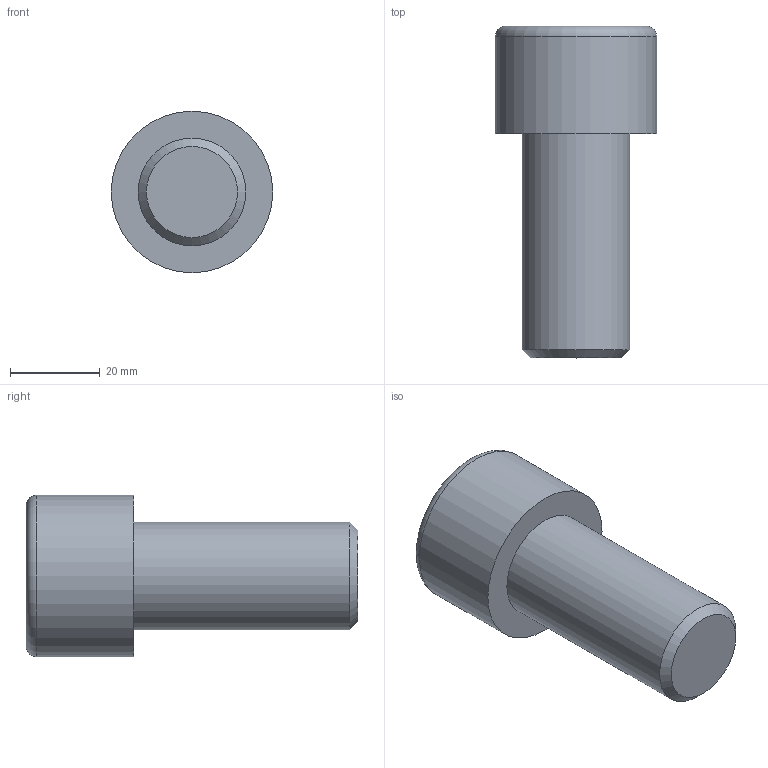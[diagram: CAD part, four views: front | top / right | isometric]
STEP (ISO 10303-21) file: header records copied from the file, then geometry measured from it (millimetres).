
FILE_DESCRIPTION(/* description */ (''),/* implementation_level */ '2;1');
FILE_NAME(/* name */ 'C:\Users\D\Documents\Inventor\各種小物\JIS\JIS B 1176 六角穴付きボルト\M24x50.stp',/* time_stamp */ '2022-05-09T19:00:00+09:00',/* author */ ('D'),/* organization */ (''),/* preprocessor_version */ 'ST-DEVELOPER v18',/* originating_system */ 'Autodesk Inventor 2020',/* authorisation */ '');
FILE_SCHEMA (('AUTOMOTIVE_DESIGN { 1 0 10303 214 3 1 1 }'));
Length unit declared in the file: millimetre
Products named in the file (1): M1.6x2.5
Bounding box: 36 x 74 x 36 mm (x, y, z)
Volume: 42263.9 mm3; surface area: 9190.1 mm2
Topology: 1 solids, 1 shells, 14 faces, 33 edges, 22 vertices
Faces by surface type: plane 9, cone 2, cylinder 2, torus 1
Full cylindrical faces by diameter (mm): 24 x1, 36 x1
Entity records: 435 total; most frequent: CARTESIAN_POINT 83, ORIENTED_EDGE 64, DIRECTION 64, EDGE_CURVE 32, AXIS2_PLACEMENT_3D 24, VERTEX_POINT 22, EDGE_LOOP 16, LINE 16
